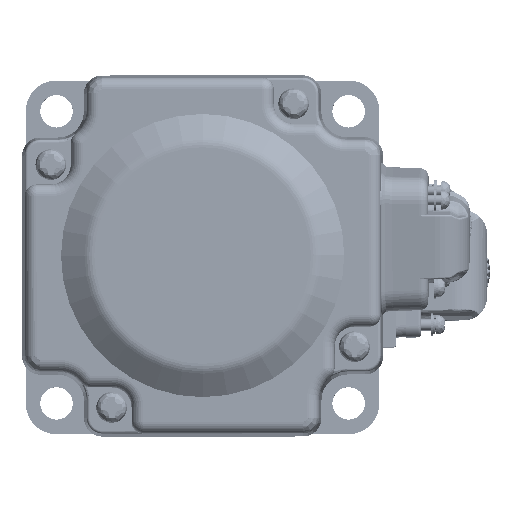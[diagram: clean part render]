
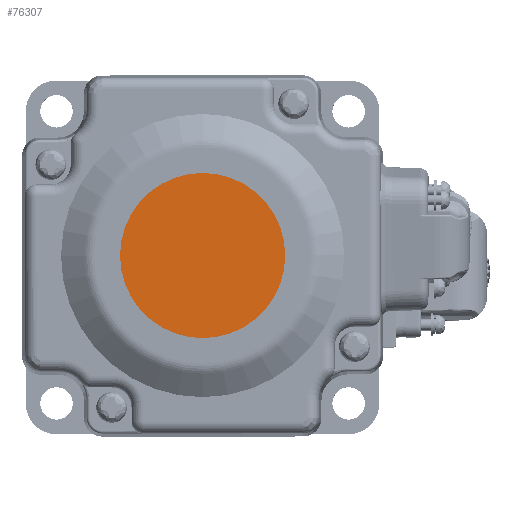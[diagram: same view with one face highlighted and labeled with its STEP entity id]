
A CAD part, top view. The second image highlights one B-rep face of the part: STEP entity #76307.
In plain terms, the highlighted planar face has unit normal (0, 0, 1).
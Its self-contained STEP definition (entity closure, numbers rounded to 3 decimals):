
#22333=CARTESIAN_POINT('',(30.161,30.201,135.54));
#22334=DIRECTION('',(0.,0.,-1.));
#22335=DIRECTION('',(1.,0.001,0.));
#22336=AXIS2_PLACEMENT_3D('',#22333,#22334,#22335);
#22338=CARTESIAN_POINT('',(30.161,30.201,135.54));
#22339=DIRECTION('',(0.,0.,-1.));
#22340=DIRECTION('',(-1.,-0.001,0.));
#22341=AXIS2_PLACEMENT_3D('',#22338,#22339,#22340);
#37468=CARTESIAN_POINT('',(16.161,30.19,135.54));
#37469=VERTEX_POINT('',#37468);
#37470=CARTESIAN_POINT('',(44.161,30.212,135.54));
#37471=VERTEX_POINT('',#37470);
#76298=CARTESIAN_POINT('',(30.161,30.201,135.54));
#76299=DIRECTION('',(0.,0.,1.));
#76300=DIRECTION('',(-1.,-0.001,0.));
#76301=AXIS2_PLACEMENT_3D('',#76298,#76299,#76300);
#76302=PLANE('',#76301);
#76303=ORIENTED_EDGE('',*,*,#76278,.T.);
#76304=ORIENTED_EDGE('',*,*,#76292,.T.);
#76305=EDGE_LOOP('',(#76303,#76304));
#76306=FACE_OUTER_BOUND('',#76305,.F.);
#22337=CIRCLE('',#22336,14.);
#22342=CIRCLE('',#22341,14.);
#76278=EDGE_CURVE('',#37471,#37469,#22337,.T.);
#76292=EDGE_CURVE('',#37469,#37471,#22342,.T.);
#76307=ADVANCED_FACE('',(#76306),#76302,.T.);
